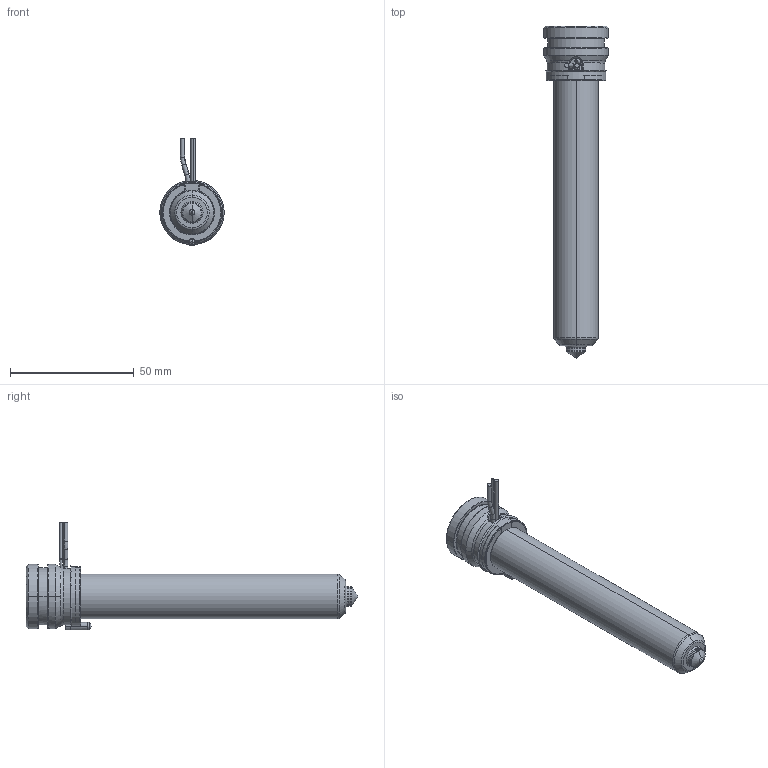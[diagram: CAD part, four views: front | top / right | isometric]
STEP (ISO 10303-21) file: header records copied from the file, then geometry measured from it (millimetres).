
FILE_DESCRIPTION((''),'2;1');
FILE_NAME('MPN-08-24-TS8-116-A','2026-02-05T11:53:01',('UPTIO'),('Thermoplay S.p.A.'),'CREO PARAMETRIC BY PTC INC, 2023494','CREO PARAMETRIC BY PTC INC, 2023494','');
FILE_SCHEMA(('CONFIG_CONTROL_DESIGN','SHAPE_APPEARANCE_LAYERS_GROUPS'));
Length unit declared in the file: millimetre
Products named in the file (1): MPN-08-24-TS8-116-A
Bounding box: 26 x 134 x 43.5 mm (x, y, z)
Volume: 26121.2 mm3; surface area: 33246 mm2
Topology: 2 solids, 5 shells, 548 faces, 1437 edges, 892 vertices
Faces by surface type: cylinder 178, plane 146, bspline 82, torus 64, cone 60, sphere 12, extrusion 6
Entity records: 28885 total; most frequent: CARTESIAN_POINT 12712, ORIENTED_EDGE 2854, DIRECTION 2539, EDGE_CURVE 1427, AXIS2_PLACEMENT_3D 992, VERTEX_POINT 892, EDGE_LOOP 575, VECTOR 555
